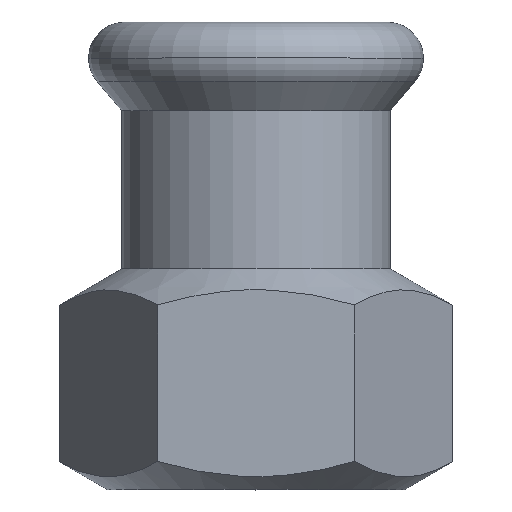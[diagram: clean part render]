
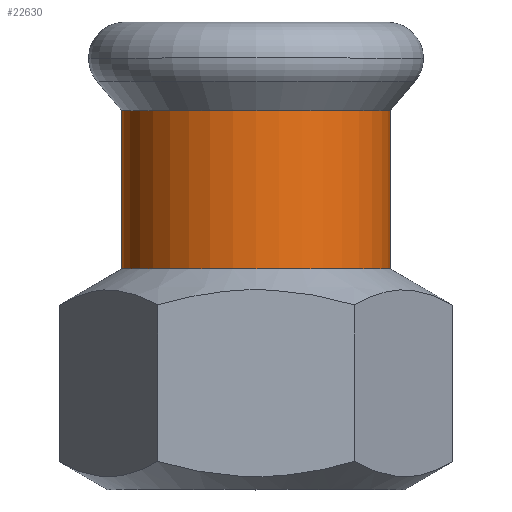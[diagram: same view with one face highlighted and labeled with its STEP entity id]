
A CAD part, top view. The second image highlights one B-rep face of the part: STEP entity #22630.
In plain terms, the highlighted cylindrical face has radius 10.625 mm (diameter 21.25 mm), a partial arc.
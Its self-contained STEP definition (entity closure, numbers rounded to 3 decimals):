
#7750=CARTESIAN_POINT('',(288.765,48.875,
0.));
#7760=VERTEX_POINT('',#7750);
#8650=CARTESIAN_POINT('',(267.515,48.875,0.));
#8660=VERTEX_POINT('',#8650);
#8690=CARTESIAN_POINT('',(278.14,48.875,0.));
#8700=DIRECTION('',(0.,-1.,0.));
#8710=DIRECTION('',(-1.,0.,0.));
#8720=AXIS2_PLACEMENT_3D('',#8690,#8700,#8710);
#8730=CIRCLE('',#8720,10.625);
#8740=EDGE_CURVE('',#7760,#8660,#8730,.T.);
#22080=CARTESIAN_POINT('',(288.765,61.388,0.));
#22090=VERTEX_POINT('',#22080);
#22270=CARTESIAN_POINT('',(267.515,61.388,
0.));
#22280=VERTEX_POINT('',#22270);
#22310=CARTESIAN_POINT('',(278.14,61.388,0.));
#22320=DIRECTION('',(0.,1.,0.));
#22330=DIRECTION('',(-1.,0.,0.));
#22340=AXIS2_PLACEMENT_3D('',#22310,#22320,#22330);
#22350=CIRCLE('',#22340,10.625);
#22410=CARTESIAN_POINT('',(278.14,54.623,0.));
#22420=DIRECTION('',(0.,-1.,0.));
#22430=DIRECTION('',(-1.,0.,0.));
#22440=AXIS2_PLACEMENT_3D('',#22410,#22420,#22430);
#22450=CYLINDRICAL_SURFACE('',#22440,10.625);
#22460=CARTESIAN_POINT('',(267.515,54.623,0.));
#22470=DIRECTION('',(0.,-1.,0.));
#22480=VECTOR('',#22470,1.);
#22490=LINE('',#22460,#22480);
#22500=EDGE_CURVE('',#22280,#8660,#22490,.T.);
#22510=ORIENTED_EDGE('',*,*,#22500,.T.);
#22520=EDGE_CURVE('',#22280,#22090,#22350,.T.);
#22530=ORIENTED_EDGE('',*,*,#22520,.F.);
#22540=CARTESIAN_POINT('',(288.765,54.623,
0.));
#22550=DIRECTION('',(0.,-1.,0.));
#22560=VECTOR('',#22550,1.);
#22570=LINE('',#22540,#22560);
#22580=EDGE_CURVE('',#22090,#7760,#22570,.T.);
#22590=ORIENTED_EDGE('',*,*,#22580,.F.);
#22600=ORIENTED_EDGE('',*,*,#8740,.F.);
#22610=EDGE_LOOP('',(#22600,#22590,#22530,#22510));
#22620=FACE_OUTER_BOUND('',#22610,.T.);
#22630=ADVANCED_FACE('',(#22620),#22450,.T.);
